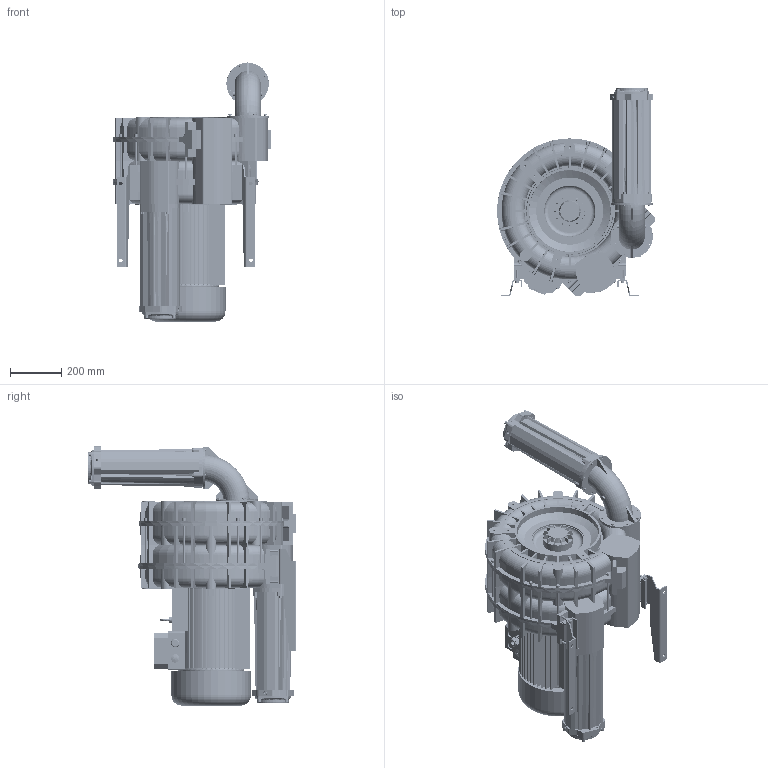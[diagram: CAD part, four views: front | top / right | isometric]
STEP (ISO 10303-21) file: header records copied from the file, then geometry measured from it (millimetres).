
FILE_DESCRIPTION (( 'STEP AP203' ), '1' );
FILE_NAME ('STP-L_e_12_TD_MOR_IE3WR_160_18.5kW-3_24-00.step', '2025-01-15T09:27:07', ( '' ), ( '' ), 'SwSTEP 2.0', 'SolidWorks 2024', '' );
FILE_SCHEMA (( 'CONFIG_CONTROL_DESIGN' ));
Length unit declared in the file: millimetre
Products named in the file (1): STP-L_e_12_TD_MOR_IE3WR_160_18.5kW-3_24-00
Bounding box: 616.34 x 813.84 x 1012 mm (x, y, z)
Volume: 115044940.8 mm3; surface area: 6163192.5 mm2
Topology: 103 solids, 103 shells, 7323 faces, 18840 edges, 11727 vertices
Faces by surface type: plane 2523, cylinder 2226, bspline 1207, torus 682, cone 628, sphere 57
Full cylindrical faces by diameter (mm): 6.8 x36, 7.5 x4, 8 x37, 8.4 x33, 8.5 x14, 8.566 x2, 8.8 x4, 9 x8, 9.98 x2, 10 x7, 11 x12, 12 x2, 12.02 x2, 13 x54, 14 x14, 16 x12, 16.5 x2, 18 x1, 19 x4, 24.4 x1, 27 x7, 28 x3, 32.5 x1, 33 x1, 90.4 x2, 94.7 x1, 110.4 x2, 115 x4, 120 x1, 128 x3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
Entity records: 340157 total; most frequent: CARTESIAN_POINT 177948, ORIENTED_EDGE 35806, DIRECTION 30685, EDGE_CURVE 17903, AXIS2_PLACEMENT_3D 11935, VERTEX_POINT 11464, EDGE_LOOP 8225, FACE_OUTER_BOUND 7715
